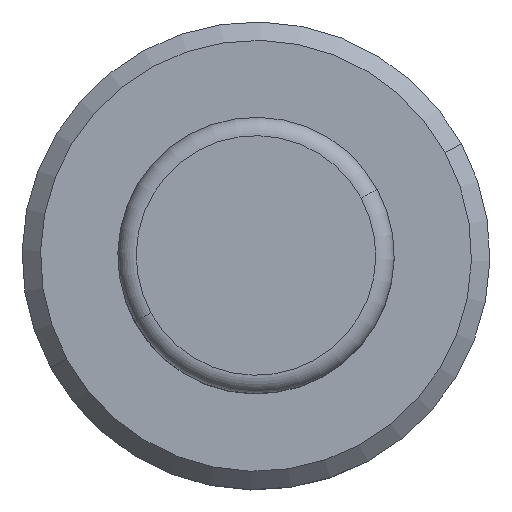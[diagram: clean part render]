
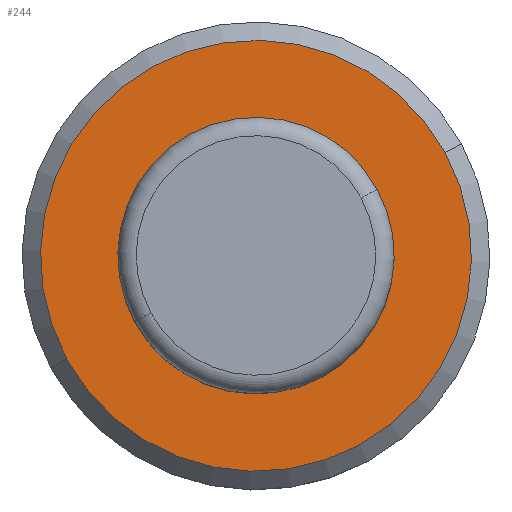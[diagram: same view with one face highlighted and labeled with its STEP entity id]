
A CAD part, top view. The second image highlights one B-rep face of the part: STEP entity #244.
In plain terms, the highlighted planar face has unit normal (0, 0, 1).
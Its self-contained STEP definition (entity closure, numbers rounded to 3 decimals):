
#183=CARTESIAN_POINT('Vertex',(-6.582,-3.596,64.)) ;
#186=CARTESIAN_POINT('Axis2P3D Location',(0.,0.,64.)) ;
#190=CARTESIAN_POINT('Vertex',(6.582,3.596,64.)) ;
#205=CARTESIAN_POINT('Axis2P3D Location',(0.,0.,64.)) ;
#217=CARTESIAN_POINT('Axis2P3D Location',(11.693,0.,64.)) ;
#222=CARTESIAN_POINT('Axis2P3D Location',(0.,0.,64.)) ;
#226=CARTESIAN_POINT('Vertex',(-10.261,-5.606,64.)) ;
#228=CARTESIAN_POINT('Vertex',(10.261,5.606,64.)) ;
#231=CARTESIAN_POINT('Axis2P3D Location',(0.,0.,64.)) ;
#187=DIRECTION('Axis2P3D Direction',(0.,0.,1.)) ;
#206=DIRECTION('Axis2P3D Direction',(0.,0.,1.)) ;
#218=DIRECTION('Axis2P3D Direction',(0.,0.,1.)) ;
#219=DIRECTION('Axis2P3D XDirection',(1.,0.,0.)) ;
#223=DIRECTION('Axis2P3D Direction',(0.,0.,1.)) ;
#232=DIRECTION('Axis2P3D Direction',(0.,0.,1.)) ;
#188=AXIS2_PLACEMENT_3D('Circle Axis2P3D',#186,#187,$) ;
#207=AXIS2_PLACEMENT_3D('Circle Axis2P3D',#205,#206,$) ;
#220=AXIS2_PLACEMENT_3D('Plane Axis2P3D',#217,#218,#219) ;
#224=AXIS2_PLACEMENT_3D('Circle Axis2P3D',#222,#223,$) ;
#233=AXIS2_PLACEMENT_3D('Circle Axis2P3D',#231,#232,$) ;
#237=ORIENTED_EDGE('',*,*,#230,.T.) ;
#238=ORIENTED_EDGE('',*,*,#235,.T.) ;
#241=ORIENTED_EDGE('',*,*,#209,.F.) ;
#242=ORIENTED_EDGE('',*,*,#192,.F.) ;
#243=FACE_BOUND('',#240,.T.) ;
#244=ADVANCED_FACE('',(#239,#243),#221,.T.) ;
#189=CIRCLE('generated circle',#188,7.5) ;
#208=CIRCLE('generated circle',#207,7.5) ;
#225=CIRCLE('generated circle',#224,11.693) ;
#234=CIRCLE('generated circle',#233,11.693) ;
#192=EDGE_CURVE('',#184,#191,#189,.T.) ;
#209=EDGE_CURVE('',#191,#184,#208,.T.) ;
#230=EDGE_CURVE('',#227,#229,#225,.T.) ;
#235=EDGE_CURVE('',#229,#227,#234,.T.) ;
#236=EDGE_LOOP('',(#237,#238)) ;
#240=EDGE_LOOP('',(#241,#242)) ;
#239=FACE_OUTER_BOUND('',#236,.T.) ;
#221=PLANE('Plane',#220) ;
#184=VERTEX_POINT('',#183) ;
#191=VERTEX_POINT('',#190) ;
#227=VERTEX_POINT('',#226) ;
#229=VERTEX_POINT('',#228) ;
